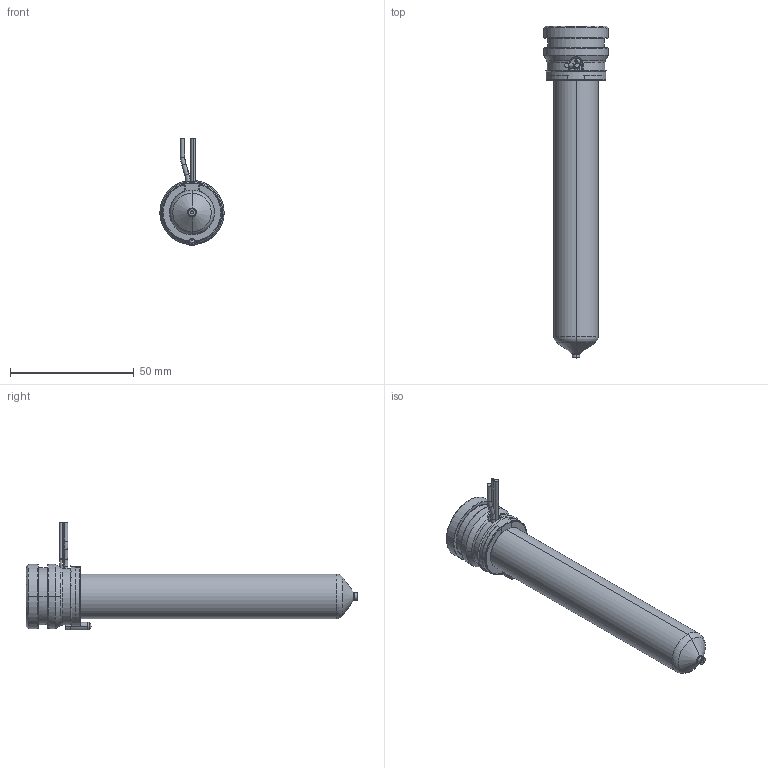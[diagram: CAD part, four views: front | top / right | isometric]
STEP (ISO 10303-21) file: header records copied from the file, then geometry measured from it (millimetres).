
FILE_DESCRIPTION((''),'2;1');
FILE_NAME('MPN-08-24-VP3-116-A','2026-02-05T12:01:51',('UPTIO'),('Thermoplay S.p.A.'),'CREO PARAMETRIC BY PTC INC, 2023494','CREO PARAMETRIC BY PTC INC, 2023494','');
FILE_SCHEMA(('CONFIG_CONTROL_DESIGN','SHAPE_APPEARANCE_LAYERS_GROUPS'));
Length unit declared in the file: millimetre
Products named in the file (1): MPN-08-24-VP3-116-A
Bounding box: 26 x 134.1 x 43.5 mm (x, y, z)
Volume: 26098.3 mm3; surface area: 33393.7 mm2
Topology: 2 solids, 3 shells, 587 faces, 1560 edges, 971 vertices
Faces by surface type: cylinder 184, plane 143, bspline 108, torus 70, cone 68, sphere 8, extrusion 6
Entity records: 31115 total; most frequent: CARTESIAN_POINT 13881, ORIENTED_EDGE 3104, DIRECTION 2714, EDGE_CURVE 1552, AXIS2_PLACEMENT_3D 1061, VERTEX_POINT 971, EDGE_LOOP 615, VECTOR 592
